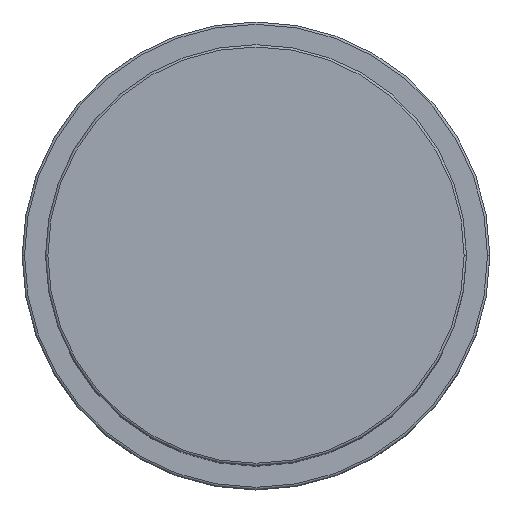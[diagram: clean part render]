
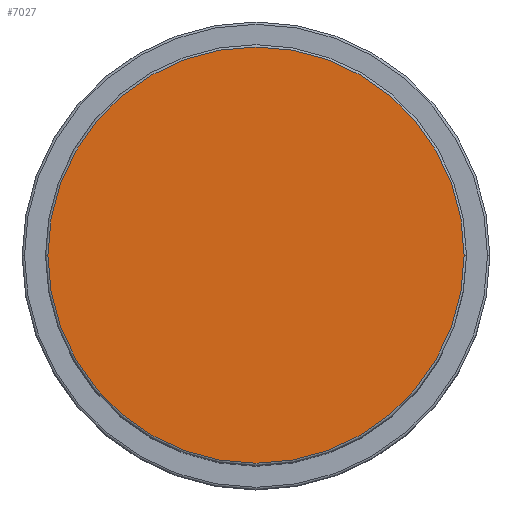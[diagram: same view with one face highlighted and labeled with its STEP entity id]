
A CAD part, top view. The second image highlights one B-rep face of the part: STEP entity #7027.
In plain terms, the highlighted planar face has unit normal (0, 0, 1).
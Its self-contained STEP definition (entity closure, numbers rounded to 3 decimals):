
#717 = AXIS2_PLACEMENT_3D ( 'NONE', #1540, #5470, #6086 ) ;
#803 = CIRCLE ( 'NONE', #3197, 44.5 ) ;
#1540 = CARTESIAN_POINT ( 'NONE',  ( 0., 0., 107. ) ) ;
#1602 = EDGE_CURVE ( 'NONE', #3440, #6173, #803, .T. ) ;
#1967 = DIRECTION ( 'NONE',  ( 0., 0., 1. ) ) ;
#1988 = FACE_OUTER_BOUND ( 'NONE', #3952, .T. ) ;
#1997 = AXIS2_PLACEMENT_3D ( 'NONE', #6247, #6273, #6834 ) ;
#2287 = CARTESIAN_POINT ( 'NONE',  ( 44.5, 0., 107. ) ) ;
#3197 = AXIS2_PLACEMENT_3D ( 'NONE', #4233, #1967, #4184 ) ;
#3440 = VERTEX_POINT ( 'NONE', #2287 ) ;
#3952 = EDGE_LOOP ( 'NONE', ( #5604, #6007 ) ) ;
#4184 = DIRECTION ( 'NONE',  ( 1., 0., 0. ) ) ;
#4233 = CARTESIAN_POINT ( 'NONE',  ( 0., 0., 107. ) ) ;
#4252 = CARTESIAN_POINT ( 'NONE',  ( -44.5, 0., 107. ) ) ;
#4604 = CIRCLE ( 'NONE', #717, 44.5 ) ;
#5061 = EDGE_CURVE ( 'NONE', #6173, #3440, #4604, .T. ) ;
#5470 = DIRECTION ( 'NONE',  ( 0., 0., 1. ) ) ;
#5604 = ORIENTED_EDGE ( 'NONE', *, *, #1602, .T. ) ;
#5688 = PLANE ( 'NONE',  #1997 ) ;
#6007 = ORIENTED_EDGE ( 'NONE', *, *, #5061, .T. ) ;
#6086 = DIRECTION ( 'NONE',  ( 1., 0., 0. ) ) ;
#6173 = VERTEX_POINT ( 'NONE', #4252 ) ;
#6247 = CARTESIAN_POINT ( 'NONE',  ( 0., 0., 107. ) ) ;
#6273 = DIRECTION ( 'NONE',  ( 0., 0., 1. ) ) ;
#6834 = DIRECTION ( 'NONE',  ( 1., 0., 0. ) ) ;
#7027 = ADVANCED_FACE ( 'NONE', ( #1988 ), #5688, .T. ) ;
